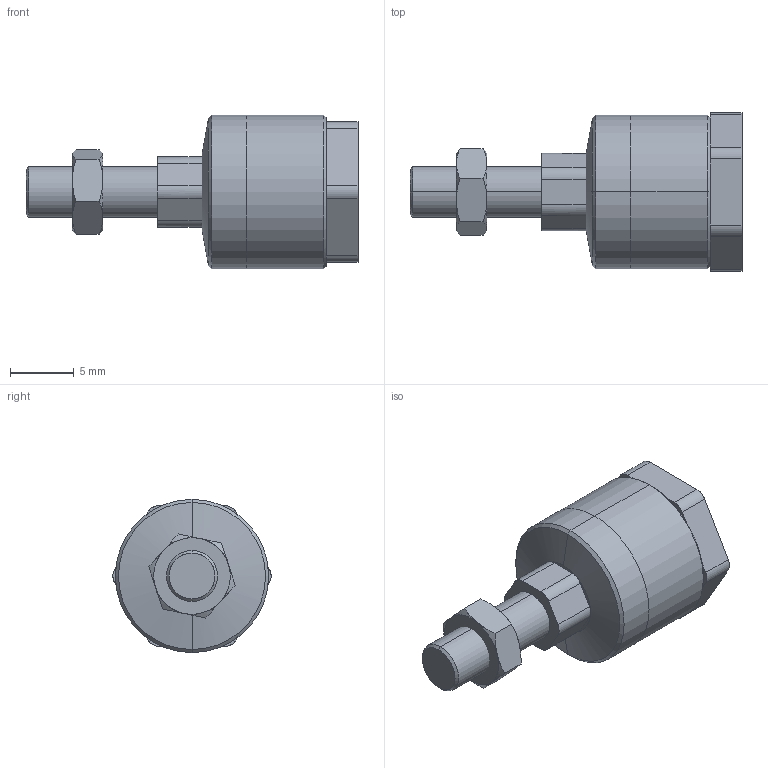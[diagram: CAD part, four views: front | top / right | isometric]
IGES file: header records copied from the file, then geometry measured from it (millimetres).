
Start section: SolidWorks IGES file using analytic representation for surfaces
Global section: file name: D:\MI\新增資料夾\FC\FCM4-0.7.IGS; native system: SolidWorks 2013; preprocessor: SolidWorks 2013; author: Sam Lin; date: 160323.113927; units: millimetre
Bounding box: 26 x 12.39 x 12 mm (x, y, z)
Surface area: 1053.5 mm2 (no closed solid volume)
Topology: 0 solids, 0 shells, 91 faces, 774 edges, 772 vertices
Faces by surface type: bspline 59, revolution 32
